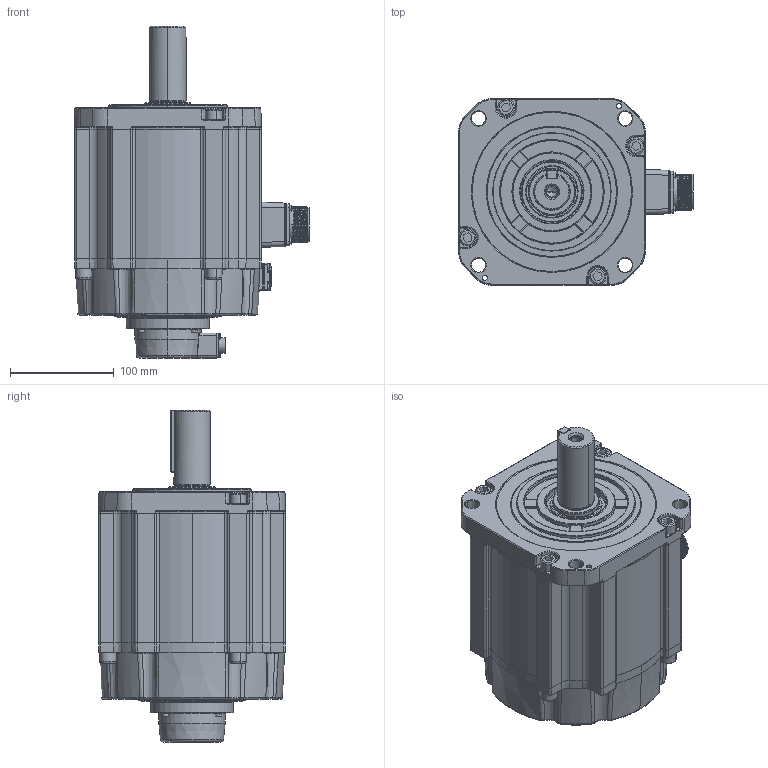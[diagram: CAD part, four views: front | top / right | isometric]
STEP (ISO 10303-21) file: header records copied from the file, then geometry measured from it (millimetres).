
FILE_DESCRIPTION (( 'STEP AP214' ), '1' );
FILE_NAME ('RSA1-M-180-4.4kw-B.STEP', '2024-08-12T09:28:23', ( '' ), ( '' ), 'SwSTEP 2.0', 'SolidWorks 2020', '' );
FILE_SCHEMA (( 'AUTOMOTIVE_DESIGN' ));
Length unit declared in the file: millimetre
Products named in the file (16): 130梓袧綴裔; 180-瑤脣釱; 4140000005_电机内部编码器线_7x26AWG(0.1m-CMV1-10芯螺纹插座_GACJ3045); 180-翋粣-35粣噤; 内六角圆柱头和平垫圈组合螺钉_M3x16; ﾊｮﾗﾖｲﾛﾅﾌﾍｷﾗﾔｼｷﾂﾝｶ､_M3x8; RSA1-M-180-4.4kw-B; 180-惕掅綴傷裔; 蚐猾_TC45x62x9; 内六角圆柱头螺钉_M10x30; 180-惕掅雄薯脣釱; す瑩_B10x8x60; 180-ヶ傷裔; 180-M-4.4kw-儂褲; 坋趼羞攫芛蹟隊_M3x30; 130秶雄ん盄揤裔
Assembly tree (35 placements, depth 2):
  RSA1-M-180-4.4kw-B
    180-M-4.4kw-儂褲
    180-ヶ傷裔
    180-瑤脣釱
    180-惕掅綴傷裔
    130梓袧綴裔
    4140000005_电机内部编码器线_7x26AWG(0.1m-CMV1-10芯螺纹插座_GACJ3045)
    180-惕掅雄薯脣釱
    180-翋粣-35粣噤
    す瑩_B10x8x60
    ﾊｮﾗﾖｲﾛﾅﾌﾍｷﾗﾔｼｷﾂﾝｶ､_M3x8  x4
    坋趼羞攫芛蹟隊_M3x30  x8
    内六角圆柱头螺钉_M10x30  x8
    内六角圆柱头和平垫圈组合螺钉_M3x16  x4
    130秶雄ん盄揤裔
    蚐猾_TC45x62x9
Bounding box: 226.5 x 180 x 320 mm (x, y, z)
Volume: 5363956.6 mm3; surface area: 465703.5 mm2
Topology: 40 solids, 41 shells, 3738 faces, 9379 edges, 5888 vertices
Faces by surface type: plane 1591, cylinder 863, bspline 543, cone 371, torus 316, sphere 54
Entity records: 119074 total; most frequent: CARTESIAN_POINT 42429, ORIENTED_EDGE 16310, DIRECTION 14831, EDGE_CURVE 8155, AXIS2_PLACEMENT_3D 5312, VERTEX_POINT 5139, LINE 4207, VECTOR 4207
